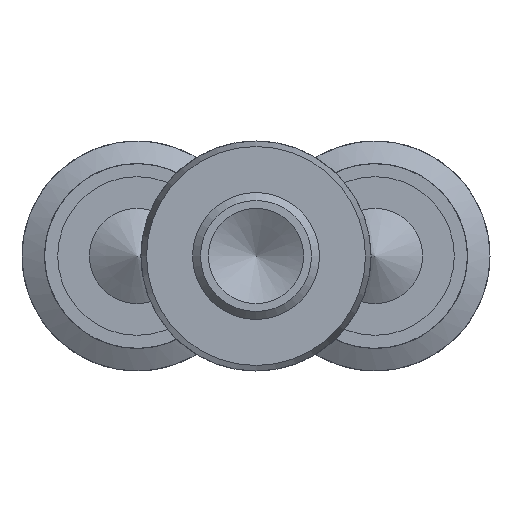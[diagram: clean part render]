
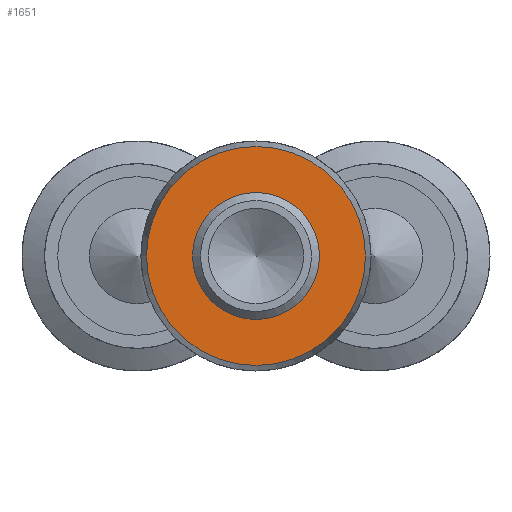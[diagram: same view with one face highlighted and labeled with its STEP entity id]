
A CAD part, left-side view. The second image highlights one B-rep face of the part: STEP entity #1651.
In plain terms, the highlighted planar face has unit normal (-1, 0, 0).
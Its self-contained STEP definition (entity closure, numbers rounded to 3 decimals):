
#671=CARTESIAN_POINT('',(-16.2,4.0,0.0));
#672=VERTEX_POINT('',#671);
#673=CARTESIAN_POINT('',(-16.2,0.0,0.0));
#674=DIRECTION('',(1.0,0.0,0.0));
#675=DIRECTION('',(0.0,1.0,0.0));
#676=AXIS2_PLACEMENT_3D('',#673,#674,#675);
#677=CIRCLE('',#676,4.0);
#678=EDGE_CURVE('',#672,#672,#677,.T.);
#1625=CARTESIAN_POINT('',(-16.2,-6.9,0.0));
#1626=VERTEX_POINT('',#1625);
#1627=CARTESIAN_POINT('',(-16.2,0.,0.0));
#1628=DIRECTION('',(-1.0,0.0,0.0));
#1629=DIRECTION('',(0.0,-1.0,0.0));
#1630=AXIS2_PLACEMENT_3D('',#1627,#1628,#1629);
#1631=CIRCLE('',#1630,6.9);
#1632=EDGE_CURVE('',#1626,#1626,#1631,.T.);
#1640=CARTESIAN_POINT('',(-16.2,-5.95,0.0));
#1641=DIRECTION('',(-1.0,0.0,0.0));
#1642=DIRECTION('',(0.0,0.0,-1.0));
#1643=AXIS2_PLACEMENT_3D('',#1640,#1641,#1642);
#1644=PLANE('',#1643);
#1645=ORIENTED_EDGE('',*,*,#1632,.T.);
#1646=EDGE_LOOP('',(#1645));
#1647=FACE_OUTER_BOUND('',#1646,.T.);
#1648=ORIENTED_EDGE('',*,*,#678,.T.);
#1649=EDGE_LOOP('',(#1648));
#1650=FACE_BOUND('',#1649,.T.);
#1651=ADVANCED_FACE('',(#1647,#1650),#1644,.T.);
